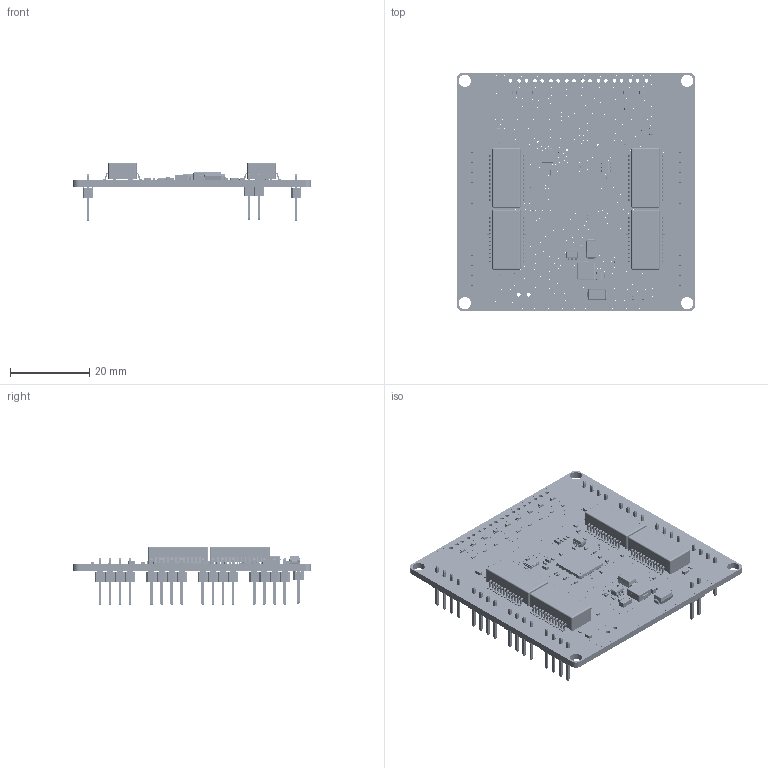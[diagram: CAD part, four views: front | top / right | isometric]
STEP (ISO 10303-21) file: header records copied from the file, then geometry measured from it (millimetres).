
FILE_DESCRIPTION(('Designed by EasyEDA Pro'),'2;1');
FILE_NAME('Open CASCADE Shape Model','2026-07-21T10:43:33',('Author'),( 'Open CASCADE'),'Open CASCADE STEP processor 7.8','Open CASCADE 7.8' ,'Unknown');
FILE_SCHEMA(('AUTOMOTIVE_DESIGN { 1 0 10303 214 1 1 1 1 }'));
Length unit declared in the file: millimetre
Products named in the file (756): EasyEDA PCB Model~yDLB; Board~yDLB; TopCopper~yDLB; BottomCopper~yDLB; TopSilkscreen~yDLB; BottomSilkscreen~yDLB; TopFpcStiffener~yDLB; BottomFpcStiffener~yDLB; C0402~C0402~B3ul; C10~C0402~C0402~TdrE; C15~C0402~C0402~pppR; C2~C0402~C0402~X99Q; C6~C0402~C0402~SmLI; C7~C0402~C0402~D1UO; C8~C0402~C0402~J5S3; C36~C0402~C0402~FKiB; C40~C0402~C0402~94ub; C42~C0402~C0402~L8z8; C43~C0402~C0402~rwww; C45~C0402~C0402~Ydpu; C46~C0402~C0402~sSe1; C47~C0402~C0402~apQN; C50~C0402~C0402~TiJD; C51~C0402~C0402~B3Ep; C52~C0402~C0402~grA4; C53~C0402~C0402~jT27; C54~C0402~C0402~4Slu; C55~C0402~C0402~oJ1L; C60~C0402~C0402~nY5T; C64~C0402~C0402~zMax; C14~C0402~C0402~DxM6; C12~C0402~C0402~Uiyw; C13~C0402~C0402~pr4u; C1~C0402~C0402~tf7W; C9~C0402~C0402~EtW4; C30~C0402~C0402~HNzn; R0402~R0402_L1.0-W0.5-H0.4~ec6g; R2~R0402~R0402_L1.0-W0.5-H0.4~htgk; R3~R0402~R0402_L1.0-W0.5-H0.4~dduO; R4~R0402~R0402_L1.0-W0.5-H0.4~sabz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
Assembly tree (828 placements, depth 3):
  EasyEDA PCB Model~yDLB
    Board~yDLB
    TopCopper~yDLB
      TopCopper~yDLB
      TopCopper~yDLB
      TopCopper~yDLB
      TopCopper~yDLB
      TopCopper~yDLB
      TopCopper~yDLB
      TopCopper~yDLB
      TopCopper~yDLB
      TopCopper~yDLB
      TopCopper~yDLB
      TopCopper~yDLB
      TopCopper~yDLB
      TopCopper~yDLB
      TopCopper~yDLB
      TopCopper~yDLB
      TopCopper~yDLB
      TopCopper~yDLB
      TopCopper~yDLB
      TopCopper~yDLB
      TopCopper~yDLB
      TopCopper~yDLB
      TopCopper~yDLB
      TopCopper~yDLB
      TopCopper~yDLB
      TopCopper~yDLB
      TopCopper~yDLB
      TopCopper~yDLB
      TopCopper~yDLB
      TopCopper~yDLB
      TopCopper~yDLB
      TopCopper~yDLB
      TopCopper~yDLB
      TopCopper~yDLB
      TopCopper~yDLB
      TopCopper~yDLB
      TopCopper~yDLB
      TopCopper~yDLB
      TopCopper~yDLB
      TopCopper~yDLB
      TopCopper~yDLB
      TopCopper~yDLB
      TopCopper~yDLB
      TopCopper~yDLB
      TopCopper~yDLB
      TopCopper~yDLB
      TopCopper~yDLB
      TopCopper~yDLB
      TopCopper~yDLB
      TopCopper~yDLB
      TopCopper~yDLB
      TopCopper~yDLB
      TopCopper~yDLB
      TopCopper~yDLB
      TopCopper~yDLB
      TopCopper~yDLB
      TopCopper~yDLB
      TopCopper~yDLB
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Bounding box: 59.97 x 59.97 x 14.85 mm (x, y, z)
Volume: 8123.4 mm3; surface area: 16805.3 mm2
Topology: 269 solids, 916 shells, 33276 faces, 130384 edges, 100121 vertices
Faces by surface type: plane 19905, bspline 9448, cylinder 3335, sphere 436, torus 136, cone 16
Entity records: 681386 total; most frequent: CARTESIAN_POINT 158571, ORIENTED_EDGE 79605, DIRECTION 78907, EDGE_CURVE 60982, VERTEX_POINT 54547, LINE 49339, VECTOR 49339, AXIS2_PLACEMENT_3D 14784
